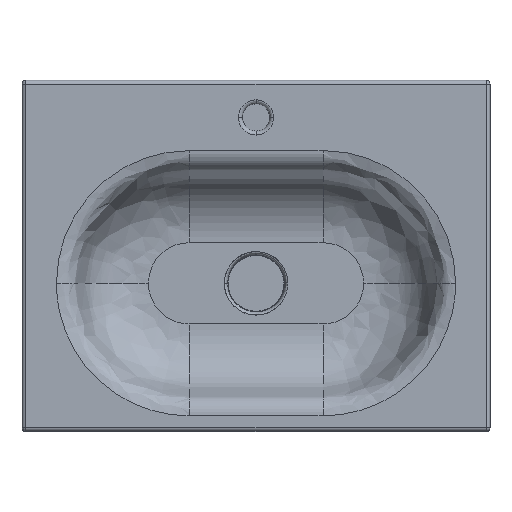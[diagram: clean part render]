
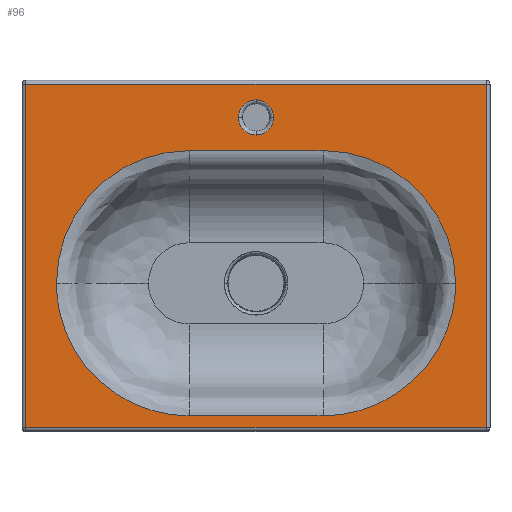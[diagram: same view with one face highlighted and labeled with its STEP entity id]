
A CAD part, top view. The second image highlights one B-rep face of the part: STEP entity #96.
In plain terms, the highlighted planar face has unit normal (0, 0, 1).
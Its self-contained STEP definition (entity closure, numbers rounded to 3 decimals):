
#16=FACE_BOUND('',#218,.T.);
#17=FACE_BOUND('',#219,.T.);
#42=B_SPLINE_CURVE_WITH_KNOTS('',1,(#2570,#2571),.UNSPECIFIED.,.F.,.F.,
(2,2),(-171.782,0.),.UNSPECIFIED.);
#43=B_SPLINE_CURVE_WITH_KNOTS('',1,(#2572,#2573),.UNSPECIFIED.,.F.,.F.,
(2,2),(0.,171.791),.UNSPECIFIED.);
#52=B_SPLINE_CURVE_WITH_KNOTS('',1,(#2618,#2619),.UNSPECIFIED.,.F.,.F.,
(2,2),(5.,595.),.UNSPECIFIED.);
#53=B_SPLINE_CURVE_WITH_KNOTS('',1,(#2620,#2621),.UNSPECIFIED.,.F.,.F.,
(2,2),(5.,595.),.UNSPECIFIED.);
#54=B_SPLINE_CURVE_WITH_KNOTS('',1,(#2622,#2623),.UNSPECIFIED.,.F.,.F.,
(2,2),(5.,445.),.UNSPECIFIED.);
#55=B_SPLINE_CURVE_WITH_KNOTS('',1,(#2624,#2625),.UNSPECIFIED.,.F.,.F.,
(2,2),(5.,445.),.UNSPECIFIED.);
#96=ADVANCED_FACE('',(#156,#16,#17),#857,.T.);
#156=FACE_OUTER_BOUND('',#217,.T.);
#217=EDGE_LOOP('',(#393,#394,#395,#396));
#218=EDGE_LOOP('',(#397,#398,#399,#400,#401,#402));
#219=EDGE_LOOP('',(#403,#404,#405,#406));
#393=ORIENTED_EDGE('',*,*,#584,.T.);
#394=ORIENTED_EDGE('',*,*,#587,.T.);
#395=ORIENTED_EDGE('',*,*,#585,.T.);
#396=ORIENTED_EDGE('',*,*,#586,.T.);
#397=ORIENTED_EDGE('',*,*,#571,.T.);
#398=ORIENTED_EDGE('',*,*,#567,.T.);
#399=ORIENTED_EDGE('',*,*,#569,.T.);
#400=ORIENTED_EDGE('',*,*,#570,.T.);
#401=ORIENTED_EDGE('',*,*,#568,.F.);
#402=ORIENTED_EDGE('',*,*,#566,.F.);
#403=ORIENTED_EDGE('',*,*,#573,.F.);
#404=ORIENTED_EDGE('',*,*,#574,.F.);
#405=ORIENTED_EDGE('',*,*,#575,.F.);
#406=ORIENTED_EDGE('',*,*,#572,.F.);
#566=EDGE_CURVE('',#768,#766,#653,.T.);
#567=EDGE_CURVE('',#770,#771,#654,.T.);
#568=EDGE_CURVE('',#766,#774,#678,.T.);
#569=EDGE_CURVE('',#771,#776,#679,.T.);
#570=EDGE_CURVE('',#776,#774,#42,.T.);
#571=EDGE_CURVE('',#768,#770,#43,.T.);
#572=EDGE_CURVE('',#759,#758,#655,.T.);
#573=EDGE_CURVE('',#762,#759,#656,.T.);
#574=EDGE_CURVE('',#763,#762,#657,.T.);
#575=EDGE_CURVE('',#758,#763,#658,.T.);
#584=EDGE_CURVE('',#814,#815,#52,.T.);
#585=EDGE_CURVE('',#816,#817,#53,.T.);
#586=EDGE_CURVE('',#817,#814,#54,.T.);
#587=EDGE_CURVE('',#815,#816,#55,.T.);
#653=(
BOUNDED_CURVE()
B_SPLINE_CURVE(2,(#2558,#2559,#2560),.UNSPECIFIED.,.F.,.F.)
B_SPLINE_CURVE_WITH_KNOTS((3,3),(-113.514,-86.811),
 .UNSPECIFIED.)
CURVE()
GEOMETRIC_REPRESENTATION_ITEM()
RATIONAL_B_SPLINE_CURVE((1.,0.707,1.))
REPRESENTATION_ITEM('')
);
#654=(
BOUNDED_CURVE()
B_SPLINE_CURVE(2,(#2561,#2562,#2563),.UNSPECIFIED.,.F.,.F.)
B_SPLINE_CURVE_WITH_KNOTS((3,3),(-113.514,-86.811),
 .UNSPECIFIED.)
CURVE()
GEOMETRIC_REPRESENTATION_ITEM()
RATIONAL_B_SPLINE_CURVE((1.,0.707,1.))
REPRESENTATION_ITEM('')
);
#655=(
BOUNDED_CURVE()
B_SPLINE_CURVE(3,(#2574,#2575,#2576,#2577,#2578,#2579),.UNSPECIFIED.,.F.,
 .F.)
B_SPLINE_CURVE_WITH_KNOTS((4,1,1,4),(70.685,83.554,93.06,
106.027),.UNSPECIFIED.)
CURVE()
GEOMETRIC_REPRESENTATION_ITEM()
RATIONAL_B_SPLINE_CURVE((1.,1.,1.,1.,1.,1.))
REPRESENTATION_ITEM('')
);
#656=(
BOUNDED_CURVE()
B_SPLINE_CURVE(3,(#2580,#2581,#2582,#2583,#2584,#2585),.UNSPECIFIED.,.F.,
 .F.)
B_SPLINE_CURVE_WITH_KNOTS((4,1,1,4),(35.342,48.238,
57.524,70.685),.UNSPECIFIED.)
CURVE()
GEOMETRIC_REPRESENTATION_ITEM()
RATIONAL_B_SPLINE_CURVE((1.,1.,1.,1.,1.,1.))
REPRESENTATION_ITEM('')
);
#657=(
BOUNDED_CURVE()
B_SPLINE_CURVE(3,(#2586,#2587,#2588,#2589,#2590,#2591),.UNSPECIFIED.,.F.,
 .F.)
B_SPLINE_CURVE_WITH_KNOTS((4,1,1,4),(141.369,154.53,
163.816,176.711),.UNSPECIFIED.)
CURVE()
GEOMETRIC_REPRESENTATION_ITEM()
RATIONAL_B_SPLINE_CURVE((1.,1.,1.,1.,1.,1.))
REPRESENTATION_ITEM('')
);
#658=(
BOUNDED_CURVE()
B_SPLINE_CURVE(3,(#2592,#2593,#2594,#2595,#2596,#2597,#2598,#2599,#2600,
#2601),.UNSPECIFIED.,.F.,.F.)
B_SPLINE_CURVE_WITH_KNOTS((4,3,3,4),(-35.342,-22.376,
-12.87,0.),.UNSPECIFIED.)
CURVE()
GEOMETRIC_REPRESENTATION_ITEM()
RATIONAL_B_SPLINE_CURVE((1.,1.,1.,1.,
1.,1.,1.,1.,1.,
1.))
REPRESENTATION_ITEM('')
);
#678=TRIMMED_CURVE($,#721,(#2565),(#2566),.T.,.CARTESIAN.);
#679=TRIMMED_CURVE($,#722,(#2568),(#2569),.T.,.CARTESIAN.);
#721=CIRCLE('',#1016,170.);
#722=CIRCLE('',#1017,170.);
#758=VERTEX_POINT('',#2078);
#759=VERTEX_POINT('',#2079);
#762=VERTEX_POINT('',#2082);
#763=VERTEX_POINT('',#2083);
#766=VERTEX_POINT('',#2086);
#768=VERTEX_POINT('',#2088);
#770=VERTEX_POINT('',#2090);
#771=VERTEX_POINT('',#2091);
#774=VERTEX_POINT('',#2094);
#776=VERTEX_POINT('',#2096);
#814=VERTEX_POINT('',#2134);
#815=VERTEX_POINT('',#2135);
#816=VERTEX_POINT('',#2136);
#817=VERTEX_POINT('',#2137);
#857=PLANE('',#993);
#993=AXIS2_PLACEMENT_3D('',#1816,#1078,$);
#1016=AXIS2_PLACEMENT_3D($,#2564,#1111,#1112);
#1017=AXIS2_PLACEMENT_3D($,#2567,#1113,#1114);
#1078=DIRECTION('',(0.,0.,1.));
#1111=DIRECTION('',(0.,0.,1.));
#1112=DIRECTION('',(1.,0.,0.));
#1113=DIRECTION('',(0.,0.,-1.));
#1114=DIRECTION('',(-1.,0.,0.));
#1816=CARTESIAN_POINT('',(-300.,0.,135.));
#2078=CARTESIAN_POINT('',(0.046,-70.,135.001));
#2079=CARTESIAN_POINT('',(-22.466,-47.488,135.001));
#2082=CARTESIAN_POINT('',(0.046,-24.977,135.001));
#2083=CARTESIAN_POINT('',(22.558,-47.488,135.001));
#2086=CARTESIAN_POINT('',(255.939,-260.,135.001));
#2088=CARTESIAN_POINT('',(85.939,-430.,135.001));
#2090=CARTESIAN_POINT('',(-85.847,-430.,135.001));
#2091=CARTESIAN_POINT('',(-255.847,-260.,135.001));
#2094=CARTESIAN_POINT('',(85.939,-90.,135.001));
#2096=CARTESIAN_POINT('',(-85.847,-90.,135.001));
#2134=CARTESIAN_POINT('',(-295.,-445.,135.));
#2135=CARTESIAN_POINT('',(295.,-445.,135.));
#2136=CARTESIAN_POINT('',(295.,-5.,135.));
#2137=CARTESIAN_POINT('',(-295.,-5.,135.));
#2558=CARTESIAN_POINT('',(85.939,-430.,135.001));
#2559=CARTESIAN_POINT('',(255.939,-430.,135.001));
#2560=CARTESIAN_POINT('',(255.939,-260.,135.001));
#2561=CARTESIAN_POINT('',(-85.847,-430.,135.001));
#2562=CARTESIAN_POINT('',(-255.847,-430.,135.001));
#2563=CARTESIAN_POINT('',(-255.847,-260.,135.001));
#2564=CARTESIAN_POINT('',(85.939,-260.,135.001));
#2565=CARTESIAN_POINT('',(255.939,-260.,135.001));
#2566=CARTESIAN_POINT('',(85.939,-90.,135.001));
#2567=CARTESIAN_POINT('',(-85.847,-260.,135.001));
#2568=CARTESIAN_POINT('',(-255.847,-260.,135.001));
#2569=CARTESIAN_POINT('',(-85.847,-90.,135.001));
#2570=CARTESIAN_POINT('',(-85.847,-90.,135.001));
#2571=CARTESIAN_POINT('',(85.939,-90.,135.001));
#2572=CARTESIAN_POINT('',(85.939,-430.,135.001));
#2573=CARTESIAN_POINT('',(-85.847,-430.,135.001));
#2574=CARTESIAN_POINT('',(-22.466,-47.488,135.001));
#2575=CARTESIAN_POINT('',(-22.477,-51.784,135.001));
#2576=CARTESIAN_POINT('',(-20.267,-59.228,135.001));
#2577=CARTESIAN_POINT('',(-11.758,-67.773,135.001));
#2578=CARTESIAN_POINT('',(-4.282,-70.011,135.001));
#2579=CARTESIAN_POINT('',(0.046,-70.,135.001));
#2580=CARTESIAN_POINT('',(0.046,-24.977,135.001));
#2581=CARTESIAN_POINT('',(-4.258,-24.965,135.001));
#2582=CARTESIAN_POINT('',(-11.637,-27.162,135.001));
#2583=CARTESIAN_POINT('',(-20.207,-35.63,135.001));
#2584=CARTESIAN_POINT('',(-22.478,-43.095,135.001));
#2585=CARTESIAN_POINT('',(-22.466,-47.488,135.001));
#2586=CARTESIAN_POINT('',(22.558,-47.488,135.001));
#2587=CARTESIAN_POINT('',(22.57,-43.095,135.001));
#2588=CARTESIAN_POINT('',(20.299,-35.63,135.001));
#2589=CARTESIAN_POINT('',(11.729,-27.162,135.001));
#2590=CARTESIAN_POINT('',(4.35,-24.965,135.001));
#2591=CARTESIAN_POINT('',(0.046,-24.977,135.001));
#2592=CARTESIAN_POINT('',(0.046,-70.,135.001));
#2593=CARTESIAN_POINT('',(4.374,-70.011,135.001));
#2594=CARTESIAN_POINT('',(8.687,-68.72,135.001));
#2595=CARTESIAN_POINT('',(12.313,-66.365,135.001));
#2596=CARTESIAN_POINT('',(14.972,-64.638,135.001));
#2597=CARTESIAN_POINT('',(17.26,-62.34,135.001));
#2598=CARTESIAN_POINT('',(18.976,-59.674,135.001));
#2599=CARTESIAN_POINT('',(21.298,-56.065,135.001));
#2600=CARTESIAN_POINT('',(22.569,-51.784,135.001));
#2601=CARTESIAN_POINT('',(22.558,-47.488,135.001));
#2618=CARTESIAN_POINT('',(-295.,-445.,135.));
#2619=CARTESIAN_POINT('',(295.,-445.,135.));
#2620=CARTESIAN_POINT('',(295.,-5.,135.));
#2621=CARTESIAN_POINT('',(-295.,-5.,135.));
#2622=CARTESIAN_POINT('',(-295.,-5.,135.));
#2623=CARTESIAN_POINT('',(-295.,-445.,135.));
#2624=CARTESIAN_POINT('',(295.,-445.,135.));
#2625=CARTESIAN_POINT('',(295.,-5.,135.));
